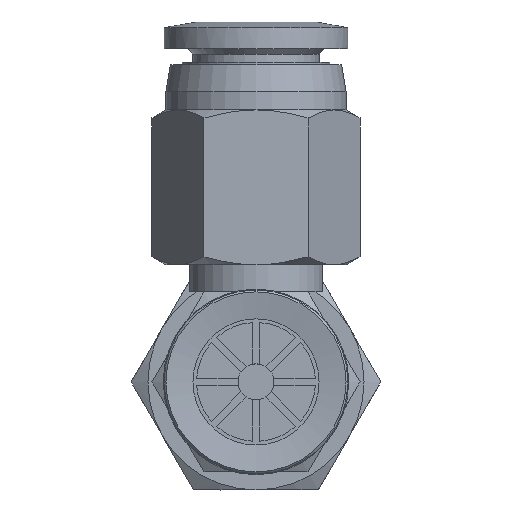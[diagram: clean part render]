
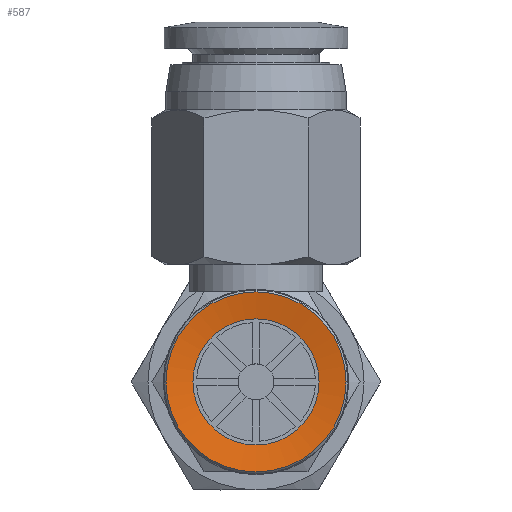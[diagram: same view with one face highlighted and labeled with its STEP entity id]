
A CAD part, front view. The second image highlights one B-rep face of the part: STEP entity #587.
In plain terms, the highlighted conical face has half-angle 80 degrees and reference radius 5 mm.
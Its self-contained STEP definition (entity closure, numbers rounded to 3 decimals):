
#587=ADVANCED_FACE('',(#967,#968),#969,.F.);
#967=FACE_BOUND('',#1430,.T.);
#968=FACE_OUTER_BOUND('',#1431,.T.);
#969=CONICAL_SURFACE('',#1432,5.0,1.396);
#1430=EDGE_LOOP('',(#2703));
#1431=EDGE_LOOP('',(#2704));
#1432=AXIS2_PLACEMENT_3D('',#2705,#2706,#2707);
#2703=ORIENTED_EDGE('',*,*,#3247,.T.);
#2704=ORIENTED_EDGE('',*,*,#3222,.F.);
#2705=CARTESIAN_POINT('',(0.0,0.,0.));
#2706=DIRECTION('',(0.0,0.,-1.0));
#2707=DIRECTION('',(0.0,1.0,0.));
#3222=EDGE_CURVE('',#3690,#3690,#3691,.T.);
#3247=EDGE_CURVE('',#3740,#3740,#3741,.T.);
#3690=VERTEX_POINT('',#4690);
#3691=CIRCLE('',#4691,5.0);
#3740=VERTEX_POINT('',#4754);
#3741=CIRCLE('',#4755,3.5);
#4690=CARTESIAN_POINT('',(0.0,-5.0,0.));
#4691=AXIS2_PLACEMENT_3D('',#5650,#5651,#5652);
#4754=CARTESIAN_POINT('',(0.0,-3.5,0.264));
#4755=AXIS2_PLACEMENT_3D('',#5697,#5698,#5699);
#5650=CARTESIAN_POINT('',(0.0,0.,0.));
#5651=DIRECTION('',(0.0,0.,1.0));
#5652=DIRECTION('',(0.0,-1.0,0.));
#5697=CARTESIAN_POINT('',(0.0,0.,0.264));
#5698=DIRECTION('',(0.0,0.,1.0));
#5699=DIRECTION('',(0.0,-1.0,0.));
